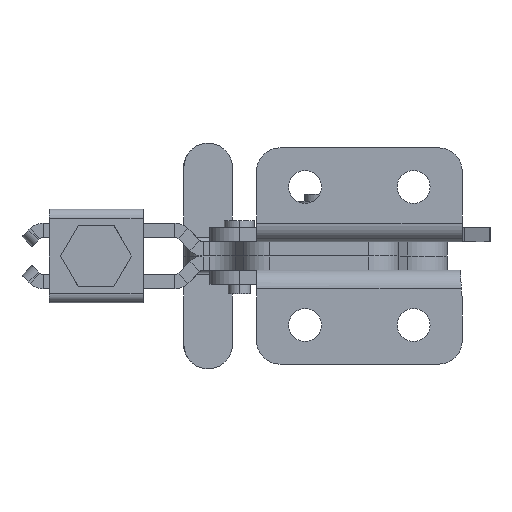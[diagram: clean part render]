
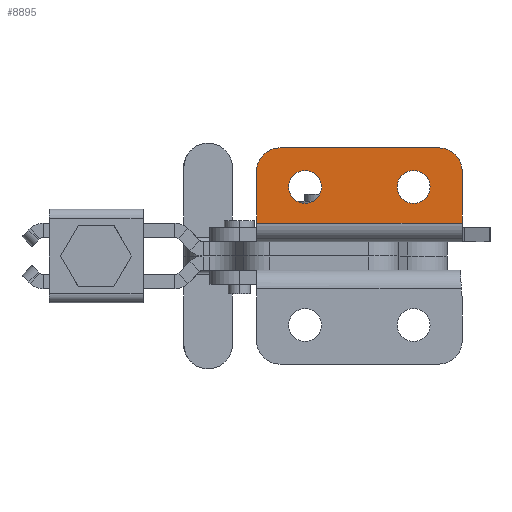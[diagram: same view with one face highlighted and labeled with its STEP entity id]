
A CAD part, front view. The second image highlights one B-rep face of the part: STEP entity #8895.
In plain terms, the highlighted planar face has unit normal (0, -1, 0).
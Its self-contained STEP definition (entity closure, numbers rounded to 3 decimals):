
#1238 = FACE_BOUND ( 'NONE', #11127, .T. ) ;
#1244 = FACE_OUTER_BOUND ( 'NONE', #11128, .T. ) ;
#1246 = FACE_BOUND ( 'NONE', #11114, .T. ) ;
#1905 = DIRECTION ( 'NONE',  ( 0., -1., 0. ) ) ;
#1912 = CARTESIAN_POINT ( 'NONE',  ( 13.262, 15.456, -29.578 ) ) ;
#1914 = PLANE ( 'NONE',  #10602 ) ;
#1916 = DIRECTION ( 'NONE',  ( -1., 0., 0. ) ) ;
#2753 = AXIS2_PLACEMENT_3D ( 'NONE', #5573, #5574, #5575 ) ;
#2755 = AXIS2_PLACEMENT_3D ( 'NONE', #5583, #5584, #5585 ) ;
#2757 = AXIS2_PLACEMENT_3D ( 'NONE', #5608, #5609, #5610 ) ;
#2758 = AXIS2_PLACEMENT_3D ( 'NONE', #5612, #5613, #5614 ) ;
#2759 = AXIS2_PLACEMENT_3D ( 'NONE', #5616, #5617, #5618 ) ;
#2760 = AXIS2_PLACEMENT_3D ( 'NONE', #5621, #5622, #5623 ) ;
#5573 = CARTESIAN_POINT ( 'NONE',  ( 11.538, 15.456, 8.7 ) ) ;
#5574 = DIRECTION ( 'NONE',  ( 0., 1., 0. ) ) ;
#5575 = DIRECTION ( 'NONE',  ( 1., 0., 0. ) ) ;
#5583 = CARTESIAN_POINT ( 'NONE',  ( -11.539, 15.456, 8.7 ) ) ;
#5584 = DIRECTION ( 'NONE',  ( 0., 1., 0. ) ) ;
#5585 = DIRECTION ( 'NONE',  ( 1., 0., 0. ) ) ;
#5588 = CARTESIAN_POINT ( 'NONE',  ( 21.883, 15.456, -29.578 ) ) ;
#5593 = DIRECTION ( 'NONE',  ( 0., 0., -1. ) ) ;
#5597 = CARTESIAN_POINT ( 'NONE',  ( -21.883, 15.456, -21.107 ) ) ;
#5603 = DIRECTION ( 'NONE',  ( 0., 0., 1. ) ) ;
#5606 = CARTESIAN_POINT ( 'NONE',  ( 13.262, 15.456, 1. ) ) ;
#5607 = DIRECTION ( 'NONE',  ( 1., 0., 0. ) ) ;
#5608 = CARTESIAN_POINT ( 'NONE',  ( 11.538, 15.456, 8.7 ) ) ;
#5609 = DIRECTION ( 'NONE',  ( 0., 1., 0. ) ) ;
#5610 = DIRECTION ( 'NONE',  ( 1., 0., 0. ) ) ;
#5611 = DIRECTION ( 'NONE',  ( 1., 0., 0. ) ) ;
#5612 = CARTESIAN_POINT ( 'NONE',  ( -11.539, 15.456, 8.7 ) ) ;
#5613 = DIRECTION ( 'NONE',  ( 0., 1., 0. ) ) ;
#5614 = DIRECTION ( 'NONE',  ( 1., 0., 0. ) ) ;
#5615 = CARTESIAN_POINT ( 'NONE',  ( 16.883, 15.456, 17. ) ) ;
#5616 = CARTESIAN_POINT ( 'NONE',  ( 16.883, 15.456, 12. ) ) ;
#5617 = DIRECTION ( 'NONE',  ( 0., 1., 0. ) ) ;
#5618 = DIRECTION ( 'NONE',  ( 1., 0., 0. ) ) ;
#5621 = CARTESIAN_POINT ( 'NONE',  ( -16.883, 15.456, 12. ) ) ;
#5622 = DIRECTION ( 'NONE',  ( 0., 1., 0. ) ) ;
#5623 = DIRECTION ( 'NONE',  ( 1., 0., 0. ) ) ;
#5855 = CIRCLE ( 'NONE', #2753, 3.5 ) ;
#5861 = CIRCLE ( 'NONE', #2755, 3.5 ) ;
#5867 = LINE ( 'NONE', #5588, #5873 ) ;
#5873 = VECTOR ( 'NONE', #5593, 1000. ) ;
#5878 = LINE ( 'NONE', #5597, #5885 ) ;
#5882 = CIRCLE ( 'NONE', #2759, 5. ) ;
#5885 = VECTOR ( 'NONE', #5603, 1000. ) ;
#5886 = CIRCLE ( 'NONE', #2757, 3.5 ) ;
#5888 = CIRCLE ( 'NONE', #2758, 3.5 ) ;
#5889 = LINE ( 'NONE', #5606, #5891 ) ;
#5890 = CIRCLE ( 'NONE', #2760, 5. ) ;
#5891 = VECTOR ( 'NONE', #5607, 1000. ) ;
#5892 = LINE ( 'NONE', #5615, #5894 ) ;
#5894 = VECTOR ( 'NONE', #5611, 1000. ) ;
#7018 = VERTEX_POINT ( 'NONE', #11787 ) ;
#7033 = VERTEX_POINT ( 'NONE', #11802 ) ;
#7034 = VERTEX_POINT ( 'NONE', #11803 ) ;
#7037 = VERTEX_POINT ( 'NONE', #11806 ) ;
#7038 = VERTEX_POINT ( 'NONE', #11807 ) ;
#7041 = VERTEX_POINT ( 'NONE', #11810 ) ;
#7042 = VERTEX_POINT ( 'NONE', #11811 ) ;
#7051 = VERTEX_POINT ( 'NONE', #11820 ) ;
#7052 = VERTEX_POINT ( 'NONE', #11821 ) ;
#7053 = VERTEX_POINT ( 'NONE', #11822 ) ;
#8895 = ADVANCED_FACE ( 'NONE', ( #1238, #1246, #1244 ), #1914, .T. ) ;
#9676 = EDGE_CURVE ( 'NONE', #7033, #7034, #5855, .T. ) ;
#9680 = EDGE_CURVE ( 'NONE', #7037, #7038, #5861, .T. ) ;
#9684 = EDGE_CURVE ( 'NONE', #7041, #7042, #5867, .T. ) ;
#9690 = EDGE_CURVE ( 'NONE', #7051, #7052, #5878, .T. ) ;
#9692 = EDGE_CURVE ( 'NONE', #7034, #7033, #5886, .T. ) ;
#9693 = EDGE_CURVE ( 'NONE', #7038, #7037, #5888, .T. ) ;
#9694 = EDGE_CURVE ( 'NONE', #7051, #7042, #5889, .T. ) ;
#9695 = EDGE_CURVE ( 'NONE', #7053, #7041, #5882, .T. ) ;
#9696 = EDGE_CURVE ( 'NONE', #7018, #7053, #5892, .T. ) ;
#9697 = EDGE_CURVE ( 'NONE', #7052, #7018, #5890, .T. ) ;
#10199 = ORIENTED_EDGE ( 'NONE', *, *, #9692, .T. ) ;
#10200 = ORIENTED_EDGE ( 'NONE', *, *, #9676, .T. ) ;
#10201 = ORIENTED_EDGE ( 'NONE', *, *, #9693, .T. ) ;
#10202 = ORIENTED_EDGE ( 'NONE', *, *, #9680, .T. ) ;
#10203 = ORIENTED_EDGE ( 'NONE', *, *, #9690, .F. ) ;
#10204 = ORIENTED_EDGE ( 'NONE', *, *, #9694, .T. ) ;
#10205 = ORIENTED_EDGE ( 'NONE', *, *, #9684, .F. ) ;
#10206 = ORIENTED_EDGE ( 'NONE', *, *, #9695, .F. ) ;
#10207 = ORIENTED_EDGE ( 'NONE', *, *, #9696, .F. ) ;
#10208 = ORIENTED_EDGE ( 'NONE', *, *, #9697, .F. ) ;
#10602 = AXIS2_PLACEMENT_3D ( 'NONE', #1912, #1905, #1916 ) ;
#11114 = EDGE_LOOP ( 'NONE', ( #10201, #10202 ) ) ;
#11127 = EDGE_LOOP ( 'NONE', ( #10199, #10200 ) ) ;
#11128 = EDGE_LOOP ( 'NONE', ( #10203, #10204, #10205, #10206, #10207, #10208 ) ) ;
#11787 = CARTESIAN_POINT ( 'NONE',  ( -16.883, 15.456, 17. ) ) ;
#11802 = CARTESIAN_POINT ( 'NONE',  ( 8.038, 15.456, 8.7 ) ) ;
#11803 = CARTESIAN_POINT ( 'NONE',  ( 15.038, 15.456, 8.7 ) ) ;
#11806 = CARTESIAN_POINT ( 'NONE',  ( -15.039, 15.456, 8.7 ) ) ;
#11807 = CARTESIAN_POINT ( 'NONE',  ( -8.039, 15.456, 8.7 ) ) ;
#11810 = CARTESIAN_POINT ( 'NONE',  ( 21.883, 15.456, 12. ) ) ;
#11811 = CARTESIAN_POINT ( 'NONE',  ( 21.883, 15.456, 1. ) ) ;
#11820 = CARTESIAN_POINT ( 'NONE',  ( -21.883, 15.456, 1. ) ) ;
#11821 = CARTESIAN_POINT ( 'NONE',  ( -21.883, 15.456, 12. ) ) ;
#11822 = CARTESIAN_POINT ( 'NONE',  ( 16.883, 15.456, 17. ) ) ;
